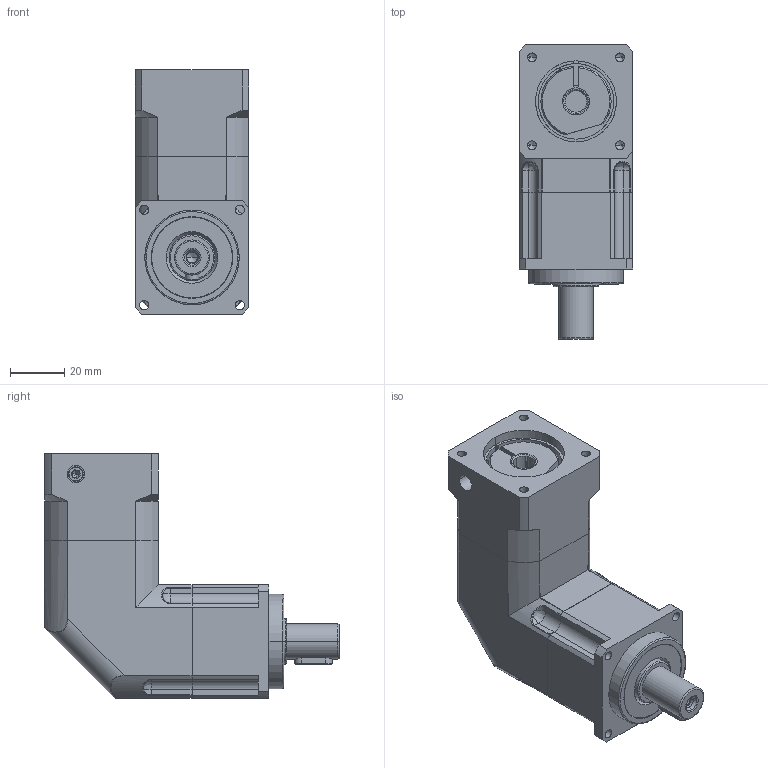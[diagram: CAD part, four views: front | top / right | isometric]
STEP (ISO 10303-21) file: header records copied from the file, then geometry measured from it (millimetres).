
FILE_DESCRIPTION (( 'STEP AP214' ), '1' );
FILE_NAME ('3.STEP', '2019-12-16T05:50:43', ( '微软用户' ), ( '微软中国' ), 'SwSTEP 2.0', 'SolidWorks 2014', '' );
FILE_SCHEMA (( 'AUTOMOTIVE_DESIGN' ));
Length unit declared in the file: millimetre
Products named in the file (2): 3
Bounding box: 42 x 108.99 x 90.49 mm (x, y, z)
Volume: 204011 mm3; surface area: 36012.3 mm2
Topology: 3 solids, 3 shells, 935 faces, 2609 edges, 1707 vertices
Faces by surface type: plane 665, cylinder 133, bspline 97, cone 40
Entity records: 38998 total; most frequent: CARTESIAN_POINT 8656, ORIENTED_EDGE 5198, DIRECTION 4348, EDGE_CURVE 2599, LINE 2068, VECTOR 2068, VERTEX_POINT 1707, AXIS2_PLACEMENT_3D 1140
